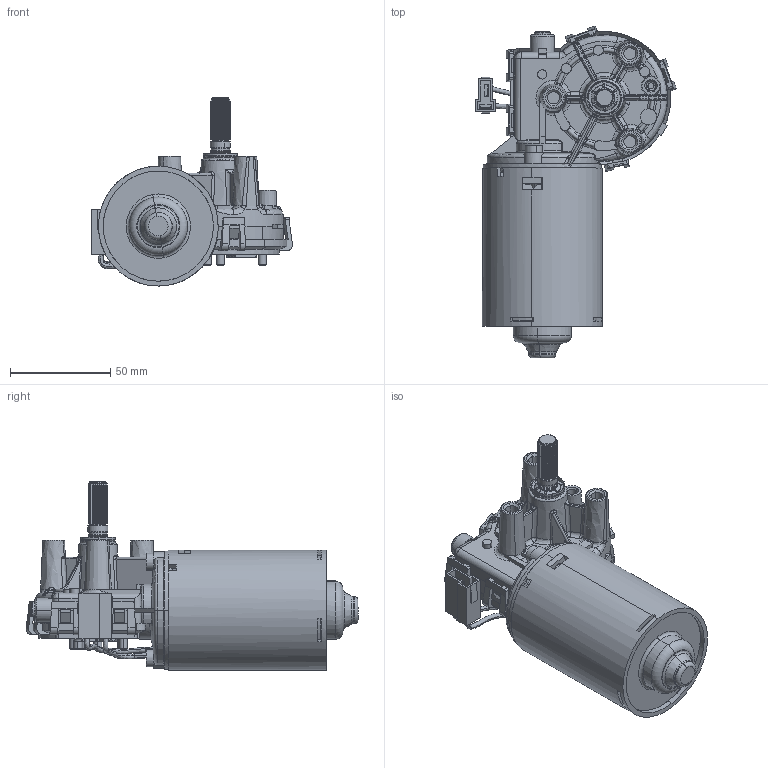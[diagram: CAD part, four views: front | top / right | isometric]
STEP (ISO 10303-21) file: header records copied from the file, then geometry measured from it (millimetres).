
FILE_DESCRIPTION(('CATIA V5 STEP Exchange'),'2;1');
FILE_NAME('C:\Documents and Settings\RA\Desktop\F006B20093_2.stp','2013-04-14T15:04:47+00:00',('none'),('none'),'CATIA Version 5 Release 19 SP 2 (IN-10)','CATIA V5 STEP AP203','none');
FILE_SCHEMA(('CONFIG_CONTROL_DESIGN'));
Products named in the file (1): F006B20093_AllCATPart
Bounding box: 100.2 x 165.71 x 93.92 mm (x, y, z)
Volume: 119782.2 mm3; surface area: 104060.6 mm2
Topology: 1 solids, 3 shells, 3117 faces, 8700 edges, 5457 vertices
Faces by surface type: plane 1173, cylinder 877, bspline 488, torus 265, cone 223, sphere 72, extrusion 16, revolution 3
Entity records: 122978 total; most frequent: CARTESIAN_POINT 54779, ORIENTED_EDGE 17074, DIRECTION 9261, EDGE_CURVE 8537, VERTEX_POINT 5453, AXIS2_PLACEMENT_3D 3894, VECTOR 3342, B_SPLINE_CURVE_WITH_KNOTS 3334
